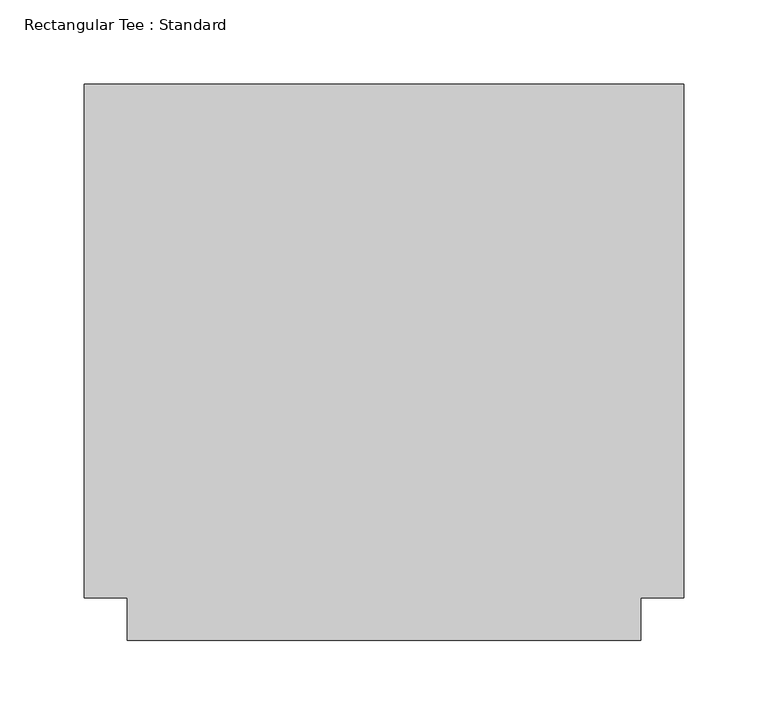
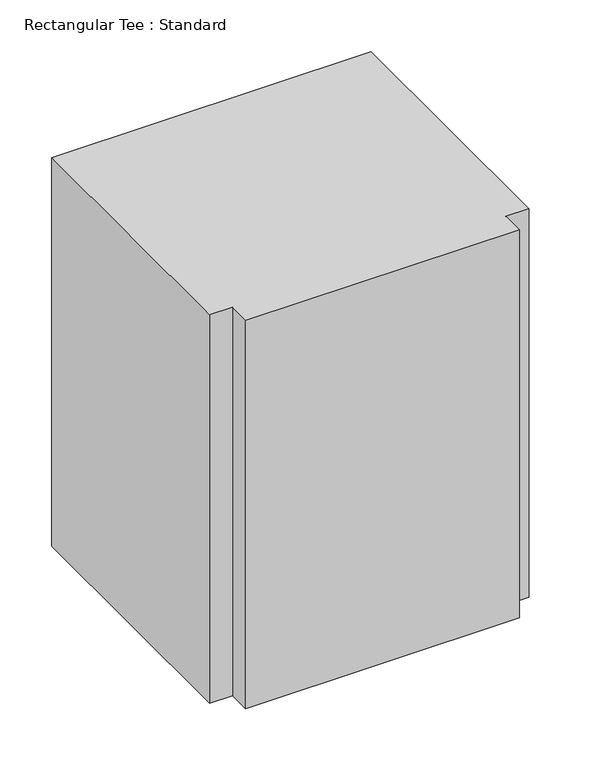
"""IFC4 building model written with IfcOpenShell, lengths in millimetres: duct fitting geometry, Rectangular Tee : Standard."""

from ifc_helpers import new_model, si_unit, frame, origin, place, context, project, spatial, polyline, outline, extrude, source, transform, mapped, element, save


def rectangular_tee_standard_c6e92247(model_context):
    return source(origin(), model_context, "Body", "SweptSolid", [
        extrude(outline(polyline([(-177.8, -152.4), (-177.8, 152.4), (177.8, 152.4), (177.8, -152.4), (152.4, -152.4), (152.4, -177.8), (-152.4, -177.8), (-152.4, -152.4), (-177.8, -152.4)])), frame((0.0, 0.0, -228.6), z_axis=(0.0, 0.0, 1.0), x_axis=(1.0, 0.0, 0.0)), (0.0, 0.0, 1.0), 457.2),
    ])


if __name__ == "__main__":
    model = new_model("IFC4")
    model_context = context("Model", 3, world=origin())
    ifc_project = project(units=[si_unit("LENGTHUNIT", "METRE", prefix="MILLI")], contexts=[model_context])
    site = spatial("IfcSite", under=ifc_project)
    building = spatial("IfcBuilding", under=site)
    placement = place(None, origin())
    rectangular_tee_standard_shape = rectangular_tee_standard_c6e92247(model_context)
    element("IfcDuctFitting", 1, ObjectType="Rectangular Tee : Standard", at=placement, inside=building, context=model_context, shape_type="MappedRepresentation", body=[
        mapped(rectangular_tee_standard_shape, transform((0.0, 0.0, 0.0), x_axis=(1.0, 0.0, 0.0), y_axis=(0.0, 1.0, 0.0), z_axis=(0.0, 0.0, 1.0))),
    ])
    save(model, "model.ifc")
